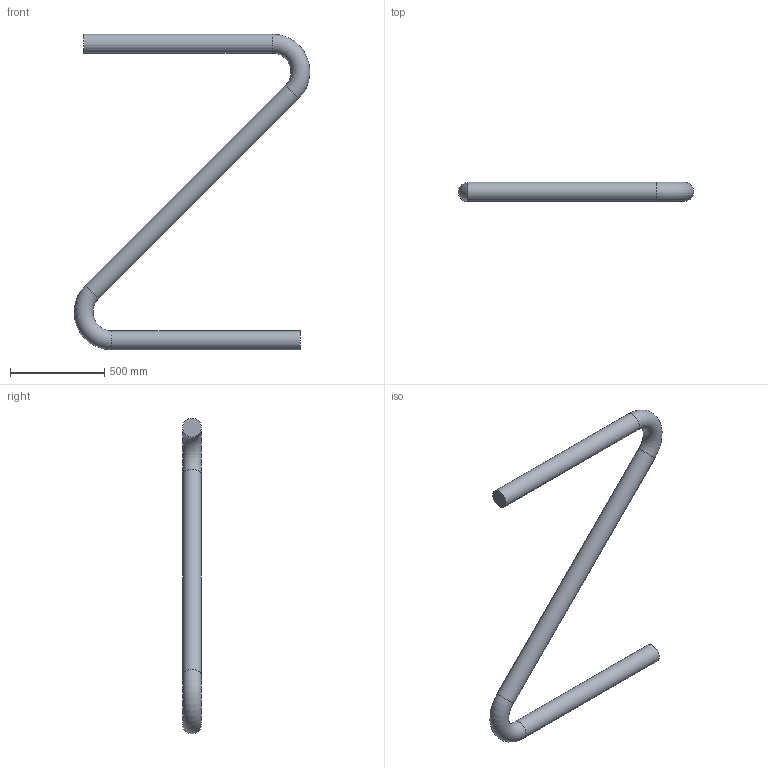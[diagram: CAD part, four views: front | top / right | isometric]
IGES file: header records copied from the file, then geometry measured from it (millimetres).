
Start section: DesignModeler IGES Output Version 5.3
Global section: file name: Geom.igs; native system: By Siemens PLM Incorporated; preprocessor: XPlus GENERIC/IGES 17.0.49; author: Zelin-admin; organization:  ; date: 20180927.123023; units: metre
Bounding box: 1249.37 x 100 x 1674.26 mm (x, y, z)
Volume: 33056936.5 mm3; surface area: 1337985.4 mm2
Topology: 1 solids, 1 shells, 7 faces, 19 edges, 14 vertices
Faces by surface type: cylinder 3, plane 2, torus 2
Full cylindrical faces by diameter (mm): 100 x3
